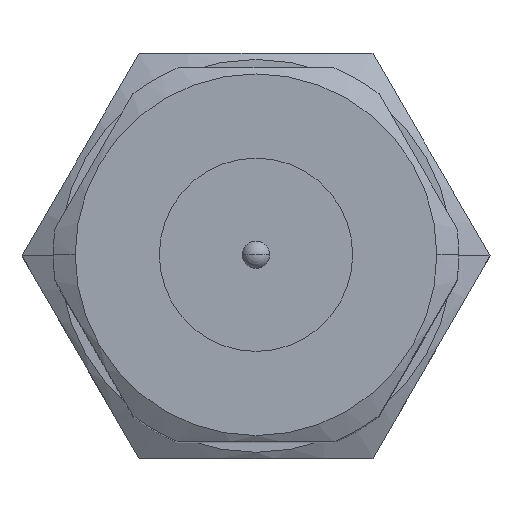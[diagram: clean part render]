
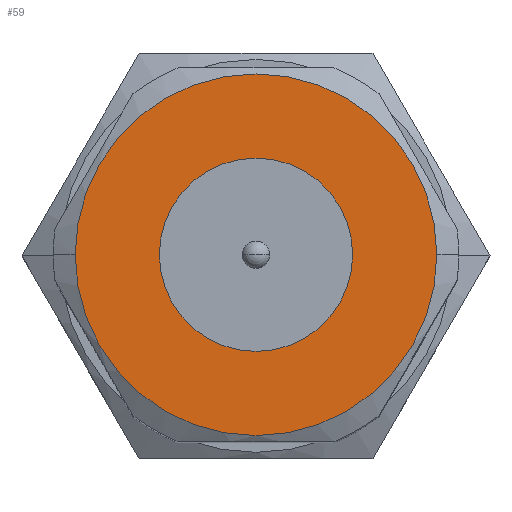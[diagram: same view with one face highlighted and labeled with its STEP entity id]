
A CAD part, top view. The second image highlights one B-rep face of the part: STEP entity #59.
In plain terms, the highlighted planar face has unit normal (0, 0, 1).
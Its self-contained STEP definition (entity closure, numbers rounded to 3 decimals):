
#59=ADVANCED_FACE('',(#276,#277),#275,.T.);
#275=PLANE('',#608);
#276=FACE_OUTER_BOUND('',#609,.T.);
#277=FACE_BOUND('',#610,.T.);
#605=CARTESIAN_POINT('',(-66.7,-60.229,154.5));
#606=DIRECTION('',(0.,0.,1.));
#607=DIRECTION('',(1.,0.,0.));
#608=AXIS2_PLACEMENT_3D('',#605,#606,#607);
#609=EDGE_LOOP('',(#873,#874));
#610=EDGE_LOOP('',(#875,#876));
#873=ORIENTED_EDGE('',*,*,#1067,.F.);
#874=ORIENTED_EDGE('',*,*,#1068,.F.);
#875=ORIENTED_EDGE('',*,*,#1069,.T.);
#876=ORIENTED_EDGE('',*,*,#1070,.T.);
#1067=EDGE_CURVE('',#1560,#1561,#1562,.T.);
#1068=EDGE_CURVE('',#1561,#1560,#1568,.T.);
#1069=EDGE_CURVE('',#1574,#1575,#1576,.T.);
#1070=EDGE_CURVE('',#1575,#1574,#1582,.T.);
#1560=VERTEX_POINT('',#2294);
#1561=VERTEX_POINT('',#2295);
#1562=CIRCLE('',#2299,29.);
#1568=CIRCLE('',#2303,29.);
#1574=VERTEX_POINT('',#2304);
#1575=VERTEX_POINT('',#2305);
#1576=CIRCLE('',#2309,15.5);
#1582=CIRCLE('',#2313,15.5);
#2294=CARTESIAN_POINT('',(-29.,0.,154.5));
#2295=CARTESIAN_POINT('',(29.,0.,154.5));
#2296=CARTESIAN_POINT('',(0.,0.,154.5));
#2297=DIRECTION('',(0.,0.,-1.));
#2298=DIRECTION('',(1.,0.,0.));
#2299=AXIS2_PLACEMENT_3D('',#2296,#2297,#2298);
#2300=CARTESIAN_POINT('',(0.,0.,154.5));
#2301=DIRECTION('',(0.,0.,-1.));
#2302=DIRECTION('',(1.,0.,0.));
#2303=AXIS2_PLACEMENT_3D('',#2300,#2301,#2302);
#2304=CARTESIAN_POINT('',(-15.5,0.,154.5));
#2305=CARTESIAN_POINT('',(15.5,0.,154.5));
#2306=CARTESIAN_POINT('',(0.,0.,154.5));
#2307=DIRECTION('',(0.,0.,-1.));
#2308=DIRECTION('',(-1.,0.,0.));
#2309=AXIS2_PLACEMENT_3D('',#2306,#2307,#2308);
#2310=CARTESIAN_POINT('',(0.,0.,154.5));
#2311=DIRECTION('',(0.,0.,-1.));
#2312=DIRECTION('',(-1.,0.,0.));
#2313=AXIS2_PLACEMENT_3D('',#2310,#2311,#2312);
